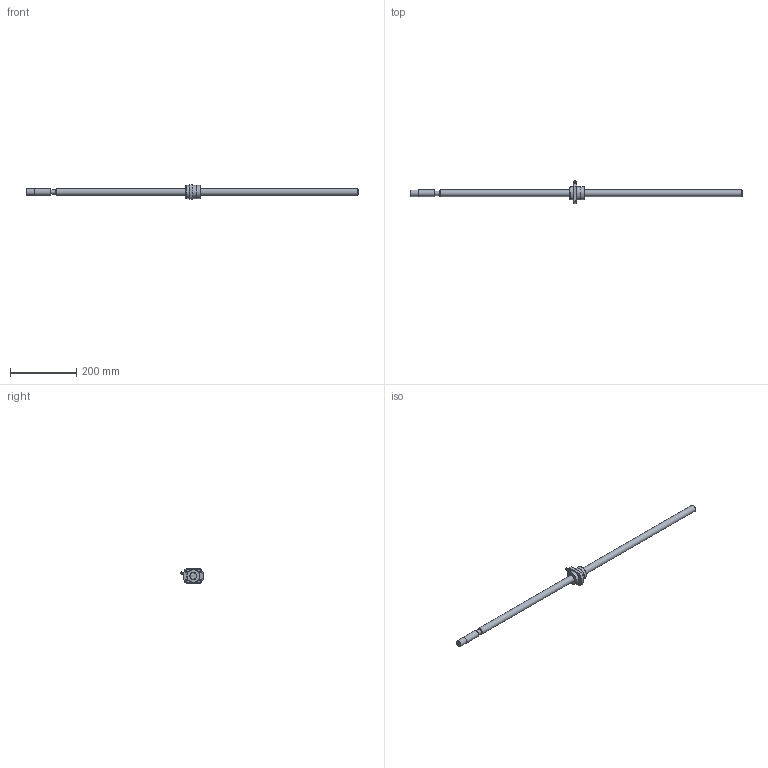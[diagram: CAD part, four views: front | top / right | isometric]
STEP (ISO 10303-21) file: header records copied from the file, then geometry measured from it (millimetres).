
FILE_DESCRIPTION((''),'2;1');
FILE_NAME('D:\製品 (図面)\カタログ用3D\ネジ関連\STEP形式\KBS(C)\KBS2040-1000(H形).stp','2010-06-01T16:53:44',('Tsuchiya'),(''),'Autodesk Inventor 10','Autodesk Inventor 10','');
FILE_SCHEMA(('AUTOMOTIVE_DESIGN { 1 0 10303 214 1 1 1 1 }'));
Length unit declared in the file: millimetre
Products named in the file (3): KBS2040-1000(H形); KBS2040-1000(H形)1; KBS2040-1000(H形)2
Assembly tree (2 placements, depth 2):
  KBS2040-1000(H形)
    KBS2040-1000(H形)1
    KBS2040-1000(H形)2
Bounding box: 1000 x 69.81 x 44 mm (x, y, z)
Volume: 363858.8 mm3; surface area: 77078.5 mm2
Topology: 3 solids, 3 shells, 49 faces, 99 edges, 61 vertices
Faces by surface type: plane 19, cone 11, cylinder 11, bspline 6, sphere 2
Full cylindrical faces by diameter (mm): 7 x1, 13.5 x1, 19.5 x1, 20 x3, 39.5 x2, 40 x1
Entity records: 1360 total; most frequent: CARTESIAN_POINT 376, DIRECTION 204, ORIENTED_EDGE 138, AXIS2_PLACEMENT_3D 95, EDGE_LOOP 90, EDGE_CURVE 69, VERTEX_POINT 55, FACE_OUTER_BOUND 49
